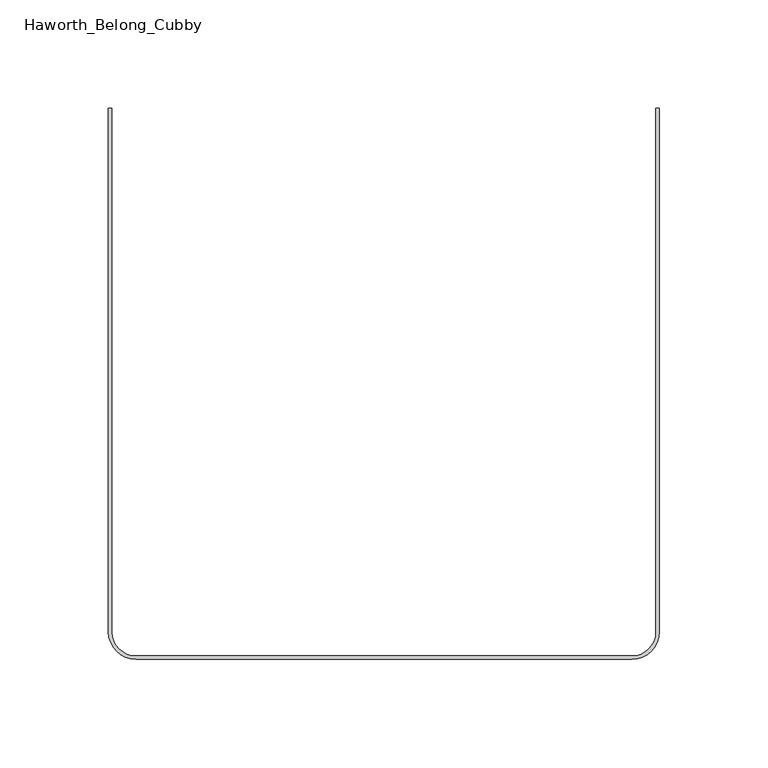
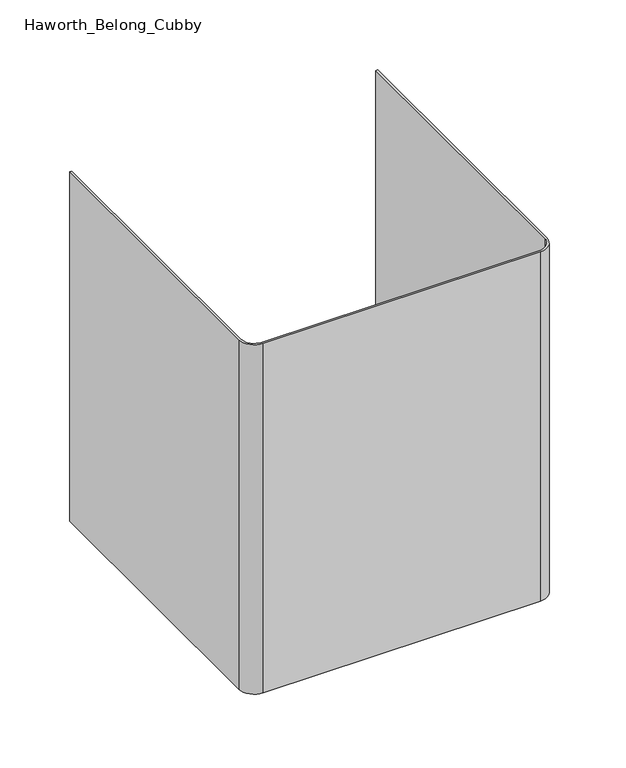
"""IFC4 building model written with IfcOpenShell, lengths in millimetres: furniture geometry, Haworth_Belong_Cubby : 12h - No Slots."""

from ifc_helpers import new_model, si_unit, point, frame, frame_2d, origin, place, context, project, spatial, polyline, circle_curve, trimmed, segment, composite_curve, outline, extrude, source, transform, mapped, element, save


def haworth_belong_cubby_aa74167b(model_context):
    return source(origin(), model_context, "Body", "SweptSolid", [
        extrude(outline(composite_curve([segment(polyline([(-127.0, 253.20625), (-125.4125, 253.20625), (-125.4125, 11.90625)]), True, "CONTINUOUS"), segment(trimmed(circle_curve(frame_2d((-114.3, 11.90625)), 11.1125), [point((-125.4125, 11.90625))], [point((-114.3, 0.79375))], True, "CARTESIAN"), True, "CONTINUOUS"), segment(polyline([(-114.3, 0.79375), (114.3, 0.79375)]), True, "CONTINUOUS"), segment(trimmed(circle_curve(frame_2d((114.3, 11.90625)), 11.1125), [point((114.3, 0.79375))], [point((125.4125, 11.90625))], True, "CARTESIAN"), True, "CONTINUOUS"), segment(polyline([(125.4125, 11.90625), (125.4125, 253.20625), (127.0, 253.20625), (127.0, 11.90625)]), True, "CONTINUOUS"), segment(trimmed(circle_curve(frame_2d((114.3, 11.90625)), 12.7), [point((127.0, 11.90625))], [point((114.3, -0.79375))], False, "CARTESIAN"), True, "CONTINUOUS"), segment(polyline([(114.3, -0.79375), (-114.3, -0.79375)]), True, "CONTINUOUS"), segment(trimmed(circle_curve(frame_2d((-114.3, 11.90625)), 12.7), [point((-114.3, -0.79375))], [point((-127.0, 11.90625))], False, "CARTESIAN"), True, "CONTINUOUS"), segment(polyline([(-127.0, 11.90625), (-127.0, 253.20625)]), True, "CONTINUOUS")], self_intersect=False)), frame((0.0, 0.0, 609.6), z_axis=(0.0, 0.0, 1.0), x_axis=(1.0, 0.0, 0.0)), (0.0, 0.0, 1.0), 304.8),
    ])


if __name__ == "__main__":
    model = new_model("IFC4")
    model_context = context("Model", 3, world=origin())
    ifc_project = project(units=[si_unit("LENGTHUNIT", "METRE", prefix="MILLI")], contexts=[model_context])
    site = spatial("IfcSite", under=ifc_project)
    building = spatial("IfcBuilding", under=site)
    placement = place(None, origin())
    haworth_belong_cubby_shape = haworth_belong_cubby_aa74167b(model_context)
    element("IfcFurniture", 1, ObjectType="Haworth_Belong_Cubby : 12h - No Slots", at=placement, inside=building, context=model_context, shape_type="MappedRepresentation", body=[
        mapped(haworth_belong_cubby_shape, transform((0.0, 0.0, 0.0), x_axis=(1.0, 0.0, 0.0), y_axis=(0.0, 1.0, 0.0), z_axis=(0.0, 0.0, 1.0))),
    ])
    save(model, "model.ifc")
